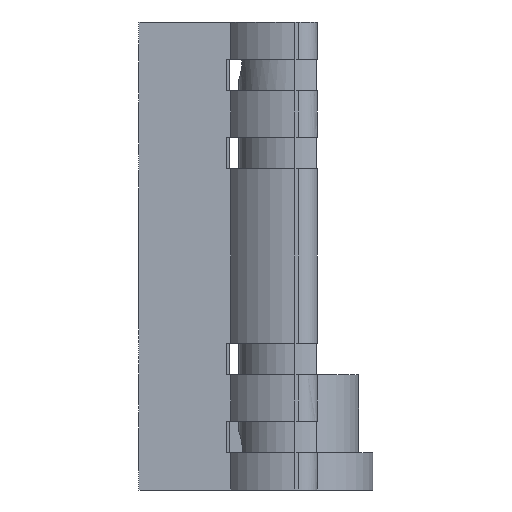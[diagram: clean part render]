
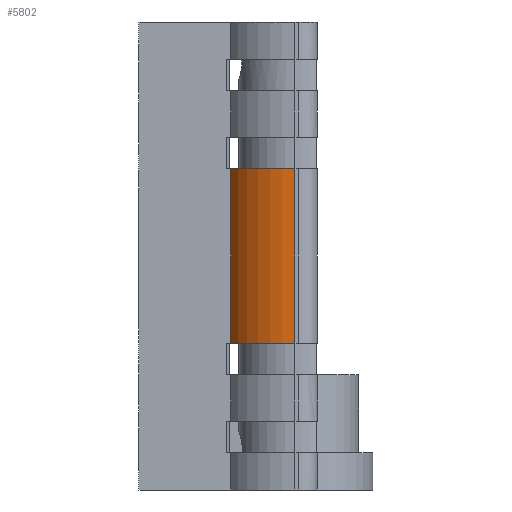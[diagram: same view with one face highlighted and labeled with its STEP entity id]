
A CAD part, left-side view. The second image highlights one B-rep face of the part: STEP entity #5802.
In plain terms, the highlighted cylindrical face has radius 12.383 mm (diameter 24.765 mm), a partial arc.
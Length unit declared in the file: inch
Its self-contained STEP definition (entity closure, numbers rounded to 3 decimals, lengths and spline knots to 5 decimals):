
#110 = VERTEX_POINT ( 'NONE', #2661 ) ;
#411 = VERTEX_POINT ( 'NONE', #7043 ) ;
#508 = CARTESIAN_POINT ( 'NONE',  ( 0., 0., 2.06 ) ) ;
#577 = EDGE_CURVE ( 'NONE', #1281, #6647, #7301, .T. ) ;
#868 = AXIS2_PLACEMENT_3D ( 'NONE', #3784, #8199, #5974 ) ;
#1255 = DIRECTION ( 'NONE',  ( -1., 0., 0. ) ) ;
#1281 = VERTEX_POINT ( 'NONE', #2893 ) ;
#1631 = VECTOR ( 'NONE', #8018, 39.37008 ) ;
#2329 = CIRCLE ( 'NONE', #4474, 0.4875 ) ;
#2661 = CARTESIAN_POINT ( 'NONE',  ( -0.4875, 0., 2.06 ) ) ;
#2871 = ORIENTED_EDGE ( 'NONE', *, *, #4303, .F. ) ;
#2893 = CARTESIAN_POINT ( 'NONE',  ( -0.25842, 0.41337, 2.06 ) ) ;
#3417 = ORIENTED_EDGE ( 'NONE', *, *, #577, .T. ) ;
#3526 = ORIENTED_EDGE ( 'NONE', *, *, #8599, .T. ) ;
#3617 = VECTOR ( 'NONE', #9396, 39.37008 ) ;
#3635 = CARTESIAN_POINT ( 'NONE',  ( 0., 0., 0.94 ) ) ;
#3784 = CARTESIAN_POINT ( 'NONE',  ( 0., 0., 3. ) ) ;
#4303 = EDGE_CURVE ( 'NONE', #110, #411, #5558, .T. ) ;
#4384 = DIRECTION ( 'NONE',  ( -1., 0., 0. ) ) ;
#4474 = AXIS2_PLACEMENT_3D ( 'NONE', #508, #5674, #1255 ) ;
#4880 = CIRCLE ( 'NONE', #7922, 0.4875 ) ;
#4998 = CARTESIAN_POINT ( 'NONE',  ( -0.25842, 0.41337, 3. ) ) ;
#5558 = LINE ( 'NONE', #8047, #1631 ) ;
#5674 = DIRECTION ( 'NONE',  ( 0., 0., -1. ) ) ;
#5802 = ADVANCED_FACE ( 'NONE', ( #8642 ), #8412, .T. ) ;
#5974 = DIRECTION ( 'NONE',  ( -1., 0., 0. ) ) ;
#6201 = ORIENTED_EDGE ( 'NONE', *, *, #8722, .F. ) ;
#6647 = VERTEX_POINT ( 'NONE', #7849 ) ;
#7043 = CARTESIAN_POINT ( 'NONE',  ( -0.4875, 0., 0.94 ) ) ;
#7301 = LINE ( 'NONE', #4998, #3617 ) ;
#7849 = CARTESIAN_POINT ( 'NONE',  ( -0.25842, 0.41337, 0.94 ) ) ;
#7922 = AXIS2_PLACEMENT_3D ( 'NONE', #3635, #8787, #4384 ) ;
#8018 = DIRECTION ( 'NONE',  ( 0., 0., -1. ) ) ;
#8047 = CARTESIAN_POINT ( 'NONE',  ( -0.4875, 0., 3. ) ) ;
#8199 = DIRECTION ( 'NONE',  ( 0., 0., -1. ) ) ;
#8412 = CYLINDRICAL_SURFACE ( 'NONE', #868, 0.4875 ) ;
#8599 = EDGE_CURVE ( 'NONE', #110, #1281, #2329, .T. ) ;
#8642 = FACE_OUTER_BOUND ( 'NONE', #9201, .T. ) ;
#8722 = EDGE_CURVE ( 'NONE', #411, #6647, #4880, .T. ) ;
#8787 = DIRECTION ( 'NONE',  ( 0., 0., -1. ) ) ;
#9201 = EDGE_LOOP ( 'NONE', ( #2871, #3526, #3417, #6201 ) ) ;
#9396 = DIRECTION ( 'NONE',  ( 0., 0., -1. ) ) ;
